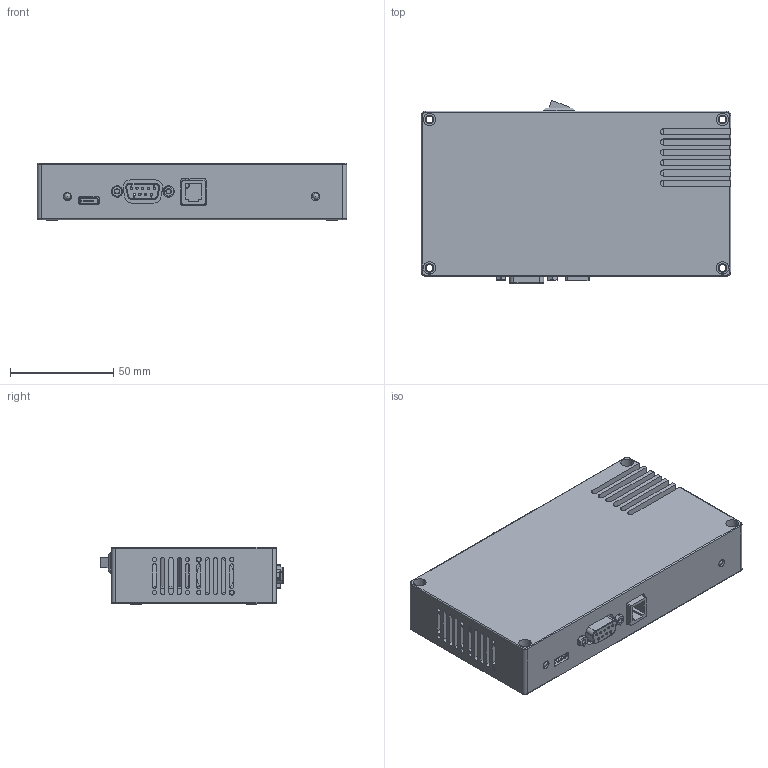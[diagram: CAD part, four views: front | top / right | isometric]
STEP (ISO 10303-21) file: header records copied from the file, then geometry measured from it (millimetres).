
FILE_DESCRIPTION (( 'STEP AP203' ), '1' );
FILE_NAME ('E53.C1K-K.STEP', '2024-08-20T02:25:34', ( 'User' ), ( 'china' ), 'SwSTEP 2.0', 'SolidWorks 2016', '' );
FILE_SCHEMA (( 'CONFIG_CONTROL_DESIGN' ));
Length unit declared in the file: millimetre
Products named in the file (1): E53.C1K-K
Bounding box: 150 x 88.84 x 27.9 mm (x, y, z)
Surface area: 71377.4 mm2 (no closed solid volume)
Topology: 0 solids, 32 shells, 454 faces, 2063 edges, 1623 vertices
Faces by surface type: cylinder 220, plane 200, torus 16, cone 12, sphere 6
Entity records: 22013 total; most frequent: CARTESIAN_POINT 4713, DIRECTION 3782, ORIENTED_EDGE 2967, EDGE_CURVE 2051, VERTEX_POINT 1617, AXIS2_PLACEMENT_3D 1318, VECTOR 1146, LINE 1146
